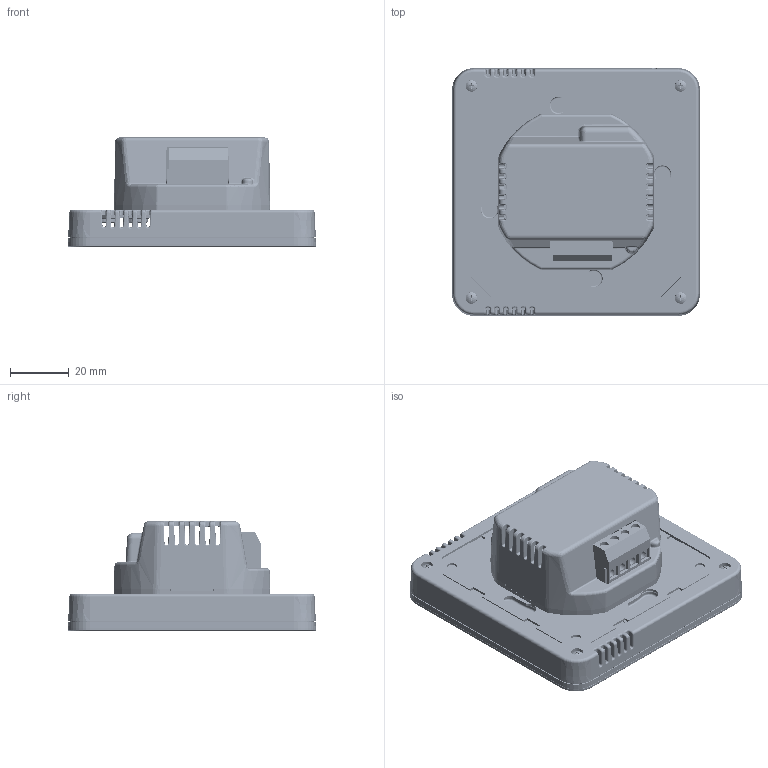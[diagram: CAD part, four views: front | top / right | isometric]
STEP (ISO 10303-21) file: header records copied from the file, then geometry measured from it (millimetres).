
FILE_DESCRIPTION(/* description */ ('','CAx-IF Rec.Pracs.---Representation and Presentation of Product Manufacturing Information (PMI)---4.0---2014-10-13'),/* implementation_level */ '2;1');
FILE_NAME(/* name */ 'WS-03.step',/* time_stamp */ '2025-02-21T13:01:09+01:00',/* author */ (''),/* organization */ (''),/* preprocessor_version */ 'ST-DEVELOPER v20',/* originating_system */ 'Autodesk Translation Framework v13.20.0.188',/* authorisation */ '');
FILE_SCHEMA (('AP242_MANAGED_MODEL_BASED_3D_ENGINEERING_MIM_LF { 1 0 10303 442 1 1 4 }'));
Products named in the file (16): przełącznik szklany; PŁYTKA _dotyk_podswietlana; szkło; OP-1020_C; switch kątowy cienk2i; tył klawisz; OP-1398_C; Blacha1.2; OP-1399_A; łączka 5; DIN ISO 7049 - C-H ST2.2 x 9.5 - C - H; LOGO; WS-03_  FARBA; PODSWIETLENIE; Wkręt do tworzyw 2,2x6; OP-1020_D
Assembly tree (25 placements, depth 3):
  przełącznik szklany
    PŁYTKA _dotyk_podswietlana
    szkło
    OP-1020_C
    switch kątowy cienk2i
    PODSWIETLENIE  x4
    tył klawisz
      OP-1398_C
      łączka 5  x4
      Blacha1.2
      OP-1399_A
      DIN ISO 7049 - C-H ST2.2 x 9.5 - C - H  x2
    Wkręt do tworzyw 2,2x6  x4
    LOGO
    WS-03_  FARBA
    OP-1020_D
Bounding box: 84.5 x 84.5 x 37.22 mm (x, y, z)
Volume: 66161.8 mm3; surface area: 106759.5 mm2
Topology: 44 solids, 44 shells, 10389 faces, 29776 edges, 19576 vertices
Faces by surface type: cone 6576, plane 1932, bspline 865, cylinder 735, torus 250, sphere 31
Full cylindrical faces by diameter (mm): 0.1 x1, 0.8 x2, 0.9 x5, 1 x4, 1.43 x4, 2 x9, 2.2 x6, 2.3 x4, 2.4 x2, 2.702 x4, 3 x5, 3.5 x4, 4 x4, 4.6 x2, 6 x1
Entity records: 173655 total; most frequent: CARTESIAN_POINT 53522, ORIENTED_EDGE 24348, DIRECTION 23142, EDGE_CURVE 12174, VERTEX_POINT 8915, AXIS2_PLACEMENT_3D 8210, EDGE_LOOP 6857, LINE 6722
